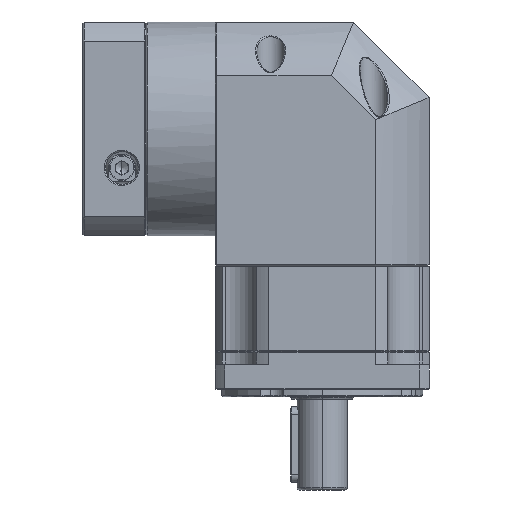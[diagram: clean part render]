
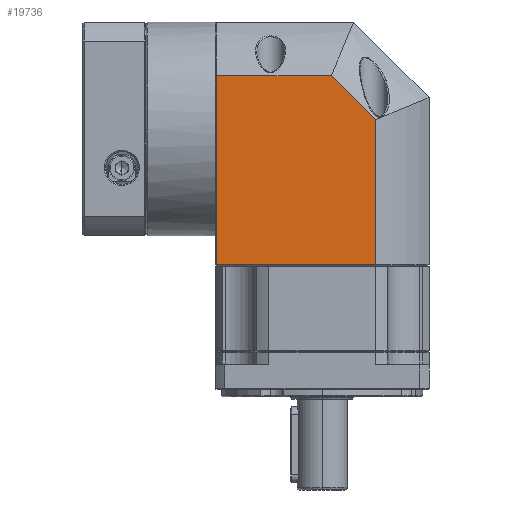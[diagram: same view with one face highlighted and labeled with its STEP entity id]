
A CAD part, left-side view. The second image highlights one B-rep face of the part: STEP entity #19736.
In plain terms, the highlighted planar face has unit normal (-1, 0, 0).
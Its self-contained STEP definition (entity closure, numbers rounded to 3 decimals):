
#2548 = CARTESIAN_POINT ( 'NONE',  ( -70.994, -23.888, 191.683 ) ) ;
#3155 = ORIENTED_EDGE ( 'NONE', *, *, #37777, .F. ) ;
#4987 = CARTESIAN_POINT ( 'NONE',  ( -70.994, -23.888, 234. ) ) ;
#7736 = ORIENTED_EDGE ( 'NONE', *, *, #52100, .F. ) ;
#11582 = CARTESIAN_POINT ( 'NONE',  ( -70.994, 39.825, 230.5 ) ) ;
#19736 = ADVANCED_FACE ( 'NONE', ( #130328 ), #65285, .F. ) ;
#21402 = VERTEX_POINT ( 'NONE', #122848 ) ;
#22415 = CARTESIAN_POINT ( 'NONE',  ( -70.994, 39.325, 230.5 ) ) ;
#24461 = ORIENTED_EDGE ( 'NONE', *, *, #72772, .F. ) ;
#29231 = DIRECTION ( 'NONE',  ( 0., -1., 0. ) ) ;
#31466 = VECTOR ( 'NONE', #101759, 1000. ) ;
#32520 = CARTESIAN_POINT ( 'NONE',  ( -70.994, 39.825, 209.213 ) ) ;
#33996 = ORIENTED_EDGE ( 'NONE', *, *, #121632, .T. ) ;
#34227 = DIRECTION ( 'NONE',  ( 0., 1., 0. ) ) ;
#37777 = EDGE_CURVE ( 'NONE', #123663, #21402, #117004, .T. ) ;
#41503 = DIRECTION ( 'NONE',  ( 0., -0.707, -0.707 ) ) ;
#43239 = LINE ( 'NONE', #4987, #31466 ) ;
#50961 = CARTESIAN_POINT ( 'NONE',  ( -70.994, 39.825, 134. ) ) ;
#52100 = EDGE_CURVE ( 'NONE', #55022, #123663, #118503, .T. ) ;
#55022 = VERTEX_POINT ( 'NONE', #55301 ) ;
#55163 = CARTESIAN_POINT ( 'NONE',  ( -70.994, -6.358, 209.213 ) ) ;
#55301 = CARTESIAN_POINT ( 'NONE',  ( -70.994, 39.325, 134. ) ) ;
#61545 = EDGE_LOOP ( 'NONE', ( #33996, #24461, #70255, #3155, #7736 ) ) ;
#65285 = PLANE ( 'NONE',  #90544 ) ;
#68371 = EDGE_CURVE ( 'NONE', #21402, #88583, #133513, .T. ) ;
#70255 = ORIENTED_EDGE ( 'NONE', *, *, #68371, .F. ) ;
#72772 = EDGE_CURVE ( 'NONE', #88583, #120812, #43239, .T. ) ;
#81535 = LINE ( 'NONE', #50961, #88280 ) ;
#87241 = DIRECTION ( 'NONE',  ( 0., 0., 1. ) ) ;
#88280 = VECTOR ( 'NONE', #29231, 1000. ) ;
#88579 = VECTOR ( 'NONE', #97686, 1000. ) ;
#88583 = VERTEX_POINT ( 'NONE', #2548 ) ;
#90544 = AXIS2_PLACEMENT_3D ( 'NONE', #11582, #98469, #34227 ) ;
#97686 = DIRECTION ( 'NONE',  ( 0., -1., 0. ) ) ;
#98469 = DIRECTION ( 'NONE',  ( 1., 0., 0. ) ) ;
#101759 = DIRECTION ( 'NONE',  ( 0., 0., -1. ) ) ;
#111600 = VECTOR ( 'NONE', #41503, 1000. ) ;
#111755 = VECTOR ( 'NONE', #87241, 1000. ) ;
#114688 = CARTESIAN_POINT ( 'NONE',  ( -70.994, 39.325, 209.213 ) ) ;
#117004 = LINE ( 'NONE', #32520, #88579 ) ;
#118503 = LINE ( 'NONE', #22415, #111755 ) ;
#120812 = VERTEX_POINT ( 'NONE', #136992 ) ;
#121632 = EDGE_CURVE ( 'NONE', #55022, #120812, #81535, .T. ) ;
#122848 = CARTESIAN_POINT ( 'NONE',  ( -70.994, -6.358, 209.213 ) ) ;
#123663 = VERTEX_POINT ( 'NONE', #114688 ) ;
#130328 = FACE_OUTER_BOUND ( 'NONE', #61545, .T. ) ;
#133513 = LINE ( 'NONE', #55163, #111600 ) ;
#136992 = CARTESIAN_POINT ( 'NONE',  ( -70.994, -23.888, 134. ) ) ;
